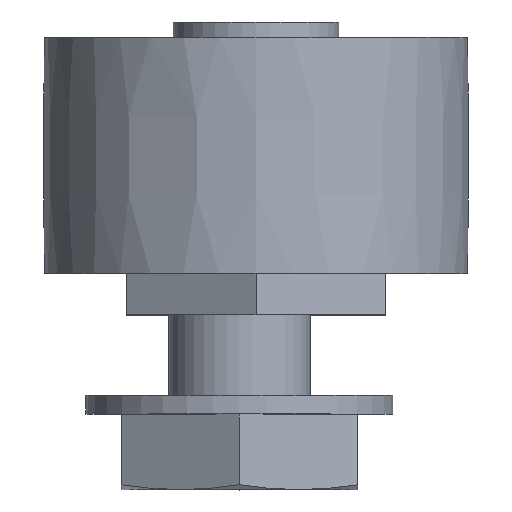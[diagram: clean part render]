
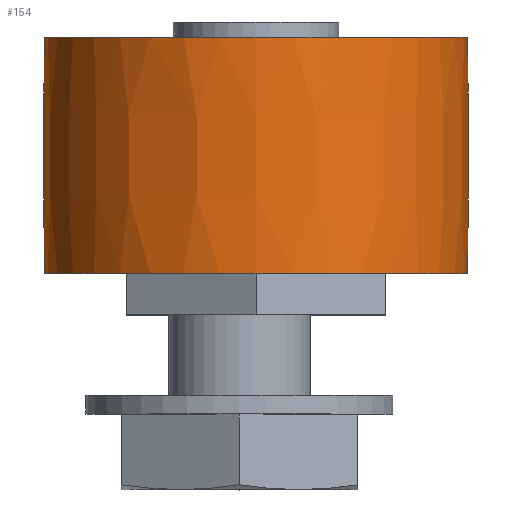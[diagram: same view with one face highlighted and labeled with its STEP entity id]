
A CAD part, top view. The second image highlights one B-rep face of the part: STEP entity #154.
In plain terms, the highlighted free-form (B-spline) face has degree [3, 3] with [4, 7] control points.
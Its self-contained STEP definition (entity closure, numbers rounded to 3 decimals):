
#154 = ADVANCED_FACE( '', ( #233, #234 ), #235, .T. );
#233 = FACE_OUTER_BOUND( '', #340, .T. );
#234 = FACE_OUTER_BOUND( '', #341, .T. );
#235 = ( BOUNDED_SURFACE(  )B_SPLINE_SURFACE( 3, 3, ( ( #344, #345, #346, #347, #348, #349, #350 ), ( #351, #352, #353, #354, #355, #356, #357 ), ( #358, #359, #360, #361, #362, #363, #364 ), ( #365, #366, #367, #368, #369, #370, #371 ) ), .UNSPECIFIED., .F., .T., .F. )B_SPLINE_SURFACE_WITH_KNOTS( ( 4, 4 ), ( 4, 3, 4 ), ( 0., 6.283 ), ( -0.02, 0., 0.02 ), .UNSPECIFIED. )GEOMETRIC_REPRESENTATION_ITEM(  )RATIONAL_B_SPLINE_SURFACE( ( ( 1., 0.333, 0.333, 1., 0.333, 0.333, 1. ), ( 1., 0.333, 0.333, 1., 0.333, 0.333, 1. ), ( 1., 0.333, 0.333, 1., 0.333, 0.333, 1. ), ( 1., 0.333, 0.333, 1., 0.333, 0.333, 1. ) ) )REPRESENTATION_ITEM( '' )SURFACE(  ) );
#340 = EDGE_LOOP( '', ( #587 ) );
#341 = EDGE_LOOP( '', ( #588 ) );
#344 = CARTESIAN_POINT( '', ( 0., 1.75, -8.95 ) );
#345 = CARTESIAN_POINT( '', ( 17.9, 1.75, -8.95 ) );
#346 = CARTESIAN_POINT( '', ( 17.9, 1.75, 8.95 ) );
#347 = CARTESIAN_POINT( '', ( 0., 1.75, 8.95 ) );
#348 = CARTESIAN_POINT( '', ( -17.9, 1.75, 8.95 ) );
#349 = CARTESIAN_POINT( '', ( -17.9, 1.75, -8.95 ) );
#350 = CARTESIAN_POINT( '', ( 0., 1.75, -8.95 ) );
#351 = CARTESIAN_POINT( '', ( 0., 5.083, -9.017 ) );
#352 = CARTESIAN_POINT( '', ( 18.033, 5.083, -9.017 ) );
#353 = CARTESIAN_POINT( '', ( 18.033, 5.083, 9.017 ) );
#354 = CARTESIAN_POINT( '', ( 0., 5.083, 9.017 ) );
#355 = CARTESIAN_POINT( '', ( -18.033, 5.083, 9.017 ) );
#356 = CARTESIAN_POINT( '', ( -18.033, 5.083, -9.017 ) );
#357 = CARTESIAN_POINT( '', ( 0., 5.083, -9.017 ) );
#358 = CARTESIAN_POINT( '', ( 0., 8.417, -9.017 ) );
#359 = CARTESIAN_POINT( '', ( 18.033, 8.417, -9.017 ) );
#360 = CARTESIAN_POINT( '', ( 18.033, 8.417, 9.017 ) );
#361 = CARTESIAN_POINT( '', ( 0., 8.417, 9.017 ) );
#362 = CARTESIAN_POINT( '', ( -18.033, 8.417, 9.017 ) );
#363 = CARTESIAN_POINT( '', ( -18.033, 8.417, -9.017 ) );
#364 = CARTESIAN_POINT( '', ( 0., 8.417, -9.017 ) );
#365 = CARTESIAN_POINT( '', ( 0., 11.75, -8.95 ) );
#366 = CARTESIAN_POINT( '', ( 17.9, 11.75, -8.95 ) );
#367 = CARTESIAN_POINT( '', ( 17.9, 11.75, 8.95 ) );
#368 = CARTESIAN_POINT( '', ( 0., 11.75, 8.95 ) );
#369 = CARTESIAN_POINT( '', ( -17.9, 11.75, 8.95 ) );
#370 = CARTESIAN_POINT( '', ( -17.9, 11.75, -8.95 ) );
#371 = CARTESIAN_POINT( '', ( 0., 11.75, -8.95 ) );
#587 = ORIENTED_EDGE( '', *, *, #818, .T. );
#588 = ORIENTED_EDGE( '', *, *, #817, .F. );
#817 = EDGE_CURVE( '', #961, #961, #962, .T. );
#818 = EDGE_CURVE( '', #963, #963, #964, .T. );
#961 = VERTEX_POINT( '', #1197 );
#962 = CIRCLE( '', #1198, 8.95 );
#963 = VERTEX_POINT( '', #1199 );
#964 = CIRCLE( '', #1200, 8.95 );
#1197 = CARTESIAN_POINT( '', ( 0., 1.75, -8.95 ) );
#1198 = AXIS2_PLACEMENT_3D( '', #1353, #1354, #1355 );
#1199 = CARTESIAN_POINT( '', ( 0., 11.75, -8.95 ) );
#1200 = AXIS2_PLACEMENT_3D( '', #1356, #1357, #1358 );
#1353 = CARTESIAN_POINT( '', ( 0., 1.75, 0. ) );
#1354 = DIRECTION( '', ( 0., -1., 0. ) );
#1355 = DIRECTION( '', ( 0., 0., -1. ) );
#1356 = CARTESIAN_POINT( '', ( 0., 11.75, 0. ) );
#1357 = DIRECTION( '', ( 0., -1., 0. ) );
#1358 = DIRECTION( '', ( 0., 0., -1. ) );
